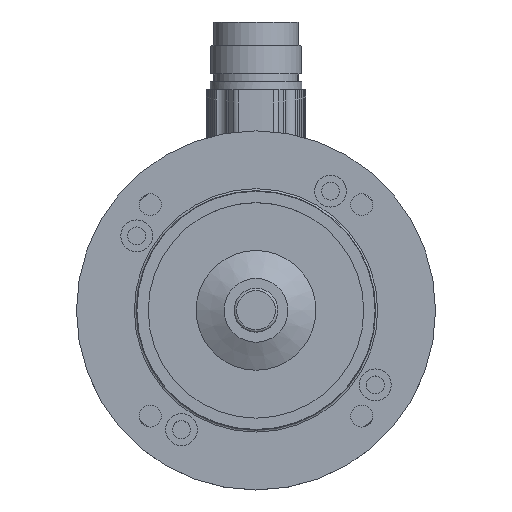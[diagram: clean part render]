
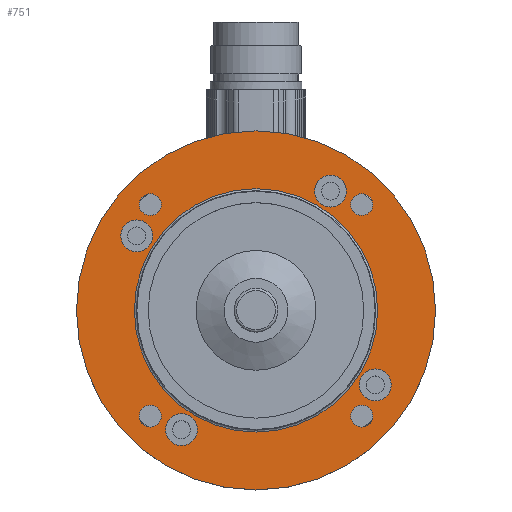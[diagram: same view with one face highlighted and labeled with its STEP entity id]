
A CAD part, top view. The second image highlights one B-rep face of the part: STEP entity #751.
In plain terms, the highlighted planar face has unit normal (0, 0, 1).
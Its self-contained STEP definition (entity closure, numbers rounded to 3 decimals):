
#349=PLANE('',#4622);
#445=FACE_BOUND('',#1413,.T.);
#446=FACE_BOUND('',#1414,.T.);
#447=FACE_BOUND('',#1415,.T.);
#448=FACE_BOUND('',#1416,.T.);
#449=FACE_BOUND('',#1417,.T.);
#450=FACE_BOUND('',#1418,.T.);
#451=FACE_BOUND('',#1419,.T.);
#452=FACE_BOUND('',#1420,.T.);
#453=FACE_BOUND('',#1421,.T.);
#751=ADVANCED_FACE('',(#445,#446,#447,#448,#449,#450,#451,#452,#453,#1206),
#349,.T.);
#1206=FACE_OUTER_BOUND('',#1422,.T.);
#1413=EDGE_LOOP('',(#2260));
#1414=EDGE_LOOP('',(#2261));
#1415=EDGE_LOOP('',(#2262));
#1416=EDGE_LOOP('',(#2263));
#1417=EDGE_LOOP('',(#2264));
#1418=EDGE_LOOP('',(#2265));
#1419=EDGE_LOOP('',(#2266));
#1420=EDGE_LOOP('',(#2267));
#1421=EDGE_LOOP('',(#2268));
#1422=EDGE_LOOP('',(#2269));
#2260=ORIENTED_EDGE('',*,*,#3727,.T.);
#2261=ORIENTED_EDGE('',*,*,#3728,.T.);
#2262=ORIENTED_EDGE('',*,*,#3729,.T.);
#2263=ORIENTED_EDGE('',*,*,#3730,.T.);
#2264=ORIENTED_EDGE('',*,*,#3731,.T.);
#2265=ORIENTED_EDGE('',*,*,#3732,.F.);
#2266=ORIENTED_EDGE('',*,*,#3733,.F.);
#2267=ORIENTED_EDGE('',*,*,#3734,.F.);
#2268=ORIENTED_EDGE('',*,*,#3735,.F.);
#2269=ORIENTED_EDGE('',*,*,#3736,.F.);
#3312=VERTEX_POINT('',#6803);
#3313=VERTEX_POINT('',#6805);
#3314=VERTEX_POINT('',#6807);
#3315=VERTEX_POINT('',#6809);
#3316=VERTEX_POINT('',#6811);
#3317=VERTEX_POINT('',#6813);
#3318=VERTEX_POINT('',#6815);
#3319=VERTEX_POINT('',#6817);
#3320=VERTEX_POINT('',#6819);
#3321=VERTEX_POINT('',#6821);
#3727=EDGE_CURVE('',#3312,#3312,#4247,.T.);
#3728=EDGE_CURVE('',#3313,#3313,#4248,.T.);
#3729=EDGE_CURVE('',#3314,#3314,#4249,.T.);
#3730=EDGE_CURVE('',#3315,#3315,#4250,.T.);
#3731=EDGE_CURVE('',#3316,#3316,#4251,.T.);
#3732=EDGE_CURVE('',#3317,#3317,#4252,.T.);
#3733=EDGE_CURVE('',#3318,#3318,#4253,.T.);
#3734=EDGE_CURVE('',#3319,#3319,#4254,.T.);
#3735=EDGE_CURVE('',#3320,#3320,#4255,.T.);
#3736=EDGE_CURVE('',#3321,#3321,#4256,.T.);
#4247=CIRCLE('',#4612,30.5);
#4248=CIRCLE('',#4613,4.);
#4249=CIRCLE('',#4614,4.);
#4250=CIRCLE('',#4615,4.);
#4251=CIRCLE('',#4616,4.);
#4252=CIRCLE('',#4617,2.75);
#4253=CIRCLE('',#4618,2.75);
#4254=CIRCLE('',#4619,2.75);
#4255=CIRCLE('',#4620,2.75);
#4256=CIRCLE('',#4621,45.);
#4612=AXIS2_PLACEMENT_3D('',#6802,#5299,#5300);
#4613=AXIS2_PLACEMENT_3D('',#6804,#5301,#5302);
#4614=AXIS2_PLACEMENT_3D('',#6806,#5303,#5304);
#4615=AXIS2_PLACEMENT_3D('',#6808,#5305,#5306);
#4616=AXIS2_PLACEMENT_3D('',#6810,#5307,#5308);
#4617=AXIS2_PLACEMENT_3D('',#6812,#5309,#5310);
#4618=AXIS2_PLACEMENT_3D('',#6814,#5311,#5312);
#4619=AXIS2_PLACEMENT_3D('',#6816,#5313,#5314);
#4620=AXIS2_PLACEMENT_3D('',#6818,#5315,#5316);
#4621=AXIS2_PLACEMENT_3D('',#6820,#5317,#5318);
#4622=AXIS2_PLACEMENT_3D('',#6822,#5319,#5320);
#5299=DIRECTION('',(0.,0.,-1.));
#5300=DIRECTION('',(1.,0.,0.));
#5301=DIRECTION('',(0.,0.,-1.));
#5302=DIRECTION('',(0.,-1.,0.));
#5303=DIRECTION('',(0.,0.,-1.));
#5304=DIRECTION('',(1.,0.,0.));
#5305=DIRECTION('',(0.,0.,-1.));
#5306=DIRECTION('',(0.,1.,0.));
#5307=DIRECTION('',(0.,0.,-1.));
#5308=DIRECTION('',(-1.,0.,0.));
#5309=DIRECTION('',(0.,0.,1.));
#5310=DIRECTION('',(1.,0.,0.));
#5311=DIRECTION('',(0.,0.,1.));
#5312=DIRECTION('',(1.,0.,0.));
#5313=DIRECTION('',(0.,0.,1.));
#5314=DIRECTION('',(1.,0.,0.));
#5315=DIRECTION('',(0.,0.,1.));
#5316=DIRECTION('',(1.,0.,0.));
#5317=DIRECTION('',(0.,0.,-1.));
#5318=DIRECTION('',(-1.,0.,0.));
#5319=DIRECTION('',(0.,0.,1.));
#5320=DIRECTION('',(1.,0.,0.));
#6802=CARTESIAN_POINT('',(0.,0.,8.));
#6803=CARTESIAN_POINT('',(30.5,0.,8.));
#6804=CARTESIAN_POINT('',(18.68,29.894,8.));
#6805=CARTESIAN_POINT('',(18.68,25.894,8.));
#6806=CARTESIAN_POINT('',(-29.894,18.68,8.));
#6807=CARTESIAN_POINT('',(-25.894,18.68,8.));
#6808=CARTESIAN_POINT('',(-18.68,-29.894,8.));
#6809=CARTESIAN_POINT('',(-18.68,-25.894,8.));
#6810=CARTESIAN_POINT('',(29.894,-18.68,8.));
#6811=CARTESIAN_POINT('',(25.894,-18.68,8.));
#6812=CARTESIAN_POINT('',(26.517,26.517,8.));
#6813=CARTESIAN_POINT('',(29.267,26.517,8.));
#6814=CARTESIAN_POINT('',(-26.517,26.517,8.));
#6815=CARTESIAN_POINT('',(-23.767,26.517,8.));
#6816=CARTESIAN_POINT('',(-26.517,-26.517,8.));
#6817=CARTESIAN_POINT('',(-23.767,-26.517,8.));
#6818=CARTESIAN_POINT('',(26.517,-26.517,8.));
#6819=CARTESIAN_POINT('',(29.267,-26.517,8.));
#6820=CARTESIAN_POINT('',(0.,0.,8.));
#6821=CARTESIAN_POINT('',(-45.,0.,8.));
#6822=CARTESIAN_POINT('',(0.,0.,8.));
